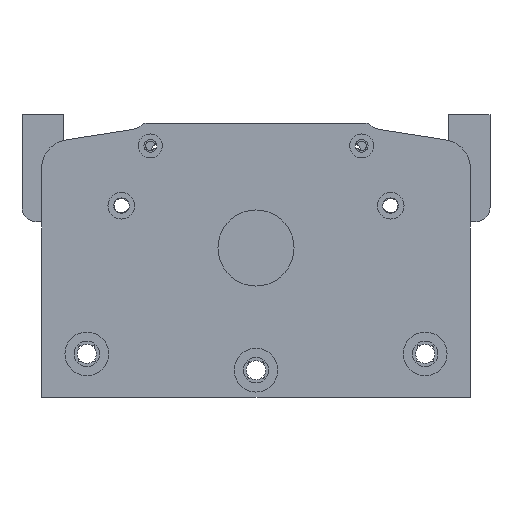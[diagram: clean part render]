
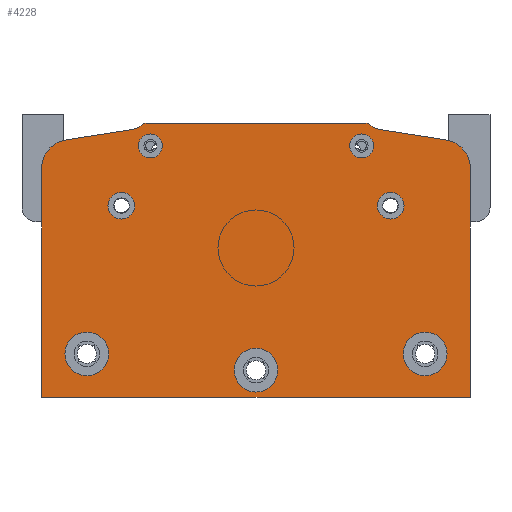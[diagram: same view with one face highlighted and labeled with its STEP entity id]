
A CAD part, left-side view. The second image highlights one B-rep face of the part: STEP entity #4228.
In plain terms, the highlighted planar face has unit normal (-1, 0, 0).
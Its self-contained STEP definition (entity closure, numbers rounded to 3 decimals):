
#363=LINE('',#24069,#1749);
#367=LINE('',#24078,#1753);
#380=LINE('',#24138,#1766);
#382=LINE('',#24156,#1768);
#383=LINE('',#24158,#1769);
#384=LINE('',#24168,#1770);
#1749=VECTOR('',#19469,1.);
#1753=VECTOR('',#19475,1.);
#1766=VECTOR('',#19526,1.);
#1768=VECTOR('',#19544,1.);
#1769=VECTOR('',#19545,1.);
#1770=VECTOR('',#19556,1.);
#4228=ADVANCED_FACE('',(#5822,#5823,#5824,#5825,#5826,#5827,#5828,#5829),
#4994,.T.);
#4994=PLANE('',#16955);
#5822=FACE_BOUND('',#6711,.T.);
#5823=FACE_BOUND('',#6712,.T.);
#5824=FACE_BOUND('',#6713,.T.);
#5825=FACE_BOUND('',#6714,.T.);
#5826=FACE_BOUND('',#6715,.T.);
#5827=FACE_BOUND('',#6716,.T.);
#5828=FACE_BOUND('',#6717,.T.);
#5829=FACE_BOUND('',#6718,.T.);
#6711=EDGE_LOOP('',(#8702));
#6712=EDGE_LOOP('',(#8703));
#6713=EDGE_LOOP('',(#8704));
#6714=EDGE_LOOP('',(#8705));
#6715=EDGE_LOOP('',(#8706));
#6716=EDGE_LOOP('',(#8707));
#6717=EDGE_LOOP('',(#8708));
#6718=EDGE_LOOP('',(#8709,#8710,#8711,#8712,#8713,#8714,#8715,#8716,#8717,
#8718,#8719,#8720));
#8702=ORIENTED_EDGE('',*,*,#13999,.F.);
#8703=ORIENTED_EDGE('',*,*,#14000,.F.);
#8704=ORIENTED_EDGE('',*,*,#14001,.F.);
#8705=ORIENTED_EDGE('',*,*,#14002,.F.);
#8706=ORIENTED_EDGE('',*,*,#14003,.F.);
#8707=ORIENTED_EDGE('',*,*,#14004,.F.);
#8708=ORIENTED_EDGE('',*,*,#14005,.F.);
#8709=ORIENTED_EDGE('',*,*,#14006,.F.);
#8710=ORIENTED_EDGE('',*,*,#13997,.F.);
#8711=ORIENTED_EDGE('',*,*,#14007,.T.);
#8712=ORIENTED_EDGE('',*,*,#14008,.F.);
#8713=ORIENTED_EDGE('',*,*,#13963,.F.);
#8714=ORIENTED_EDGE('',*,*,#14009,.F.);
#8715=ORIENTED_EDGE('',*,*,#14010,.F.);
#8716=ORIENTED_EDGE('',*,*,#13967,.F.);
#8717=ORIENTED_EDGE('',*,*,#14011,.T.);
#8718=ORIENTED_EDGE('',*,*,#14012,.F.);
#8719=ORIENTED_EDGE('',*,*,#14013,.F.);
#8720=ORIENTED_EDGE('',*,*,#14014,.F.);
#12288=VERTEX_POINT('',#24070);
#12289=VERTEX_POINT('',#24071);
#12292=VERTEX_POINT('',#24079);
#12293=VERTEX_POINT('',#24080);
#12319=VERTEX_POINT('',#24137);
#12320=VERTEX_POINT('',#24139);
#12321=VERTEX_POINT('',#24143);
#12322=VERTEX_POINT('',#24145);
#12323=VERTEX_POINT('',#24147);
#12324=VERTEX_POINT('',#24149);
#12325=VERTEX_POINT('',#24151);
#12326=VERTEX_POINT('',#24153);
#12327=VERTEX_POINT('',#24155);
#12328=VERTEX_POINT('',#24157);
#12329=VERTEX_POINT('',#24159);
#12330=VERTEX_POINT('',#24162);
#12331=VERTEX_POINT('',#24165);
#12332=VERTEX_POINT('',#24167);
#12333=VERTEX_POINT('',#24169);
#13963=EDGE_CURVE('',#12288,#12289,#363,.T.);
#13967=EDGE_CURVE('',#12292,#12293,#367,.T.);
#13997=EDGE_CURVE('',#12319,#12320,#380,.T.);
#13999=EDGE_CURVE('',#12321,#12321,#15877,.T.);
#14000=EDGE_CURVE('',#12322,#12322,#15878,.T.);
#14001=EDGE_CURVE('',#12323,#12323,#15879,.T.);
#14002=EDGE_CURVE('',#12324,#12324,#15880,.T.);
#14003=EDGE_CURVE('',#12325,#12325,#15881,.T.);
#14004=EDGE_CURVE('',#12326,#12326,#15882,.T.);
#14005=EDGE_CURVE('',#12327,#12327,#15883,.T.);
#14006=EDGE_CURVE('',#12320,#12328,#382,.T.);
#14007=EDGE_CURVE('',#12319,#12329,#383,.T.);
#14008=EDGE_CURVE('',#12289,#12329,#15884,.T.);
#14009=EDGE_CURVE('',#12330,#12288,#15885,.T.);
#14010=EDGE_CURVE('',#12293,#12330,#15886,.T.);
#14011=EDGE_CURVE('',#12292,#12331,#15887,.T.);
#14012=EDGE_CURVE('',#12332,#12331,#15888,.T.);
#14013=EDGE_CURVE('',#12333,#12332,#384,.T.);
#14014=EDGE_CURVE('',#12328,#12333,#15889,.T.);
#15877=CIRCLE('',#16942,4.25);
#15878=CIRCLE('',#16943,4.25);
#15879=CIRCLE('',#16944,4.75);
#15880=CIRCLE('',#16945,4.75);
#15881=CIRCLE('',#16946,7.75);
#15882=CIRCLE('',#16947,7.75);
#15883=CIRCLE('',#16948,7.75);
#15884=CIRCLE('',#16949,10.);
#15885=CIRCLE('',#16950,6.);
#15886=CIRCLE('',#16951,2.5);
#15887=CIRCLE('',#16952,2.5);
#15888=CIRCLE('',#16953,6.);
#15889=CIRCLE('',#16954,10.);
#16942=AXIS2_PLACEMENT_3D('',#24142,#19530,#19531);
#16943=AXIS2_PLACEMENT_3D('',#24144,#19532,#19533);
#16944=AXIS2_PLACEMENT_3D('',#24146,#19534,#19535);
#16945=AXIS2_PLACEMENT_3D('',#24148,#19536,#19537);
#16946=AXIS2_PLACEMENT_3D('',#24150,#19538,#19539);
#16947=AXIS2_PLACEMENT_3D('',#24152,#19540,#19541);
#16948=AXIS2_PLACEMENT_3D('',#24154,#19542,#19543);
#16949=AXIS2_PLACEMENT_3D('',#24160,#19546,#19547);
#16950=AXIS2_PLACEMENT_3D('',#24161,#19548,#19549);
#16951=AXIS2_PLACEMENT_3D('',#24163,#19550,#19551);
#16952=AXIS2_PLACEMENT_3D('',#24164,#19552,#19553);
#16953=AXIS2_PLACEMENT_3D('',#24166,#19554,#19555);
#16954=AXIS2_PLACEMENT_3D('',#24170,#19557,#19558);
#16955=AXIS2_PLACEMENT_3D('',#24171,#19559,#19560);
#19469=DIRECTION('',(0.,-0.988,-0.156));
#19475=DIRECTION('',(0.,-1.,0.));
#19526=DIRECTION('',(0.,1.,0.));
#19530=DIRECTION('',(-1.,0.,0.));
#19531=DIRECTION('',(0.,0.,1.));
#19532=DIRECTION('',(-1.,0.,0.));
#19533=DIRECTION('',(0.,0.,1.));
#19534=DIRECTION('',(-1.,0.,0.));
#19535=DIRECTION('',(0.,0.,1.));
#19536=DIRECTION('',(-1.,0.,0.));
#19537=DIRECTION('',(0.,0.,1.));
#19538=DIRECTION('',(-1.,0.,0.));
#19539=DIRECTION('',(0.,0.,1.));
#19540=DIRECTION('',(-1.,0.,0.));
#19541=DIRECTION('',(0.,0.,1.));
#19542=DIRECTION('',(-1.,0.,0.));
#19543=DIRECTION('',(0.,0.,1.));
#19544=DIRECTION('',(0.,0.,1.));
#19545=DIRECTION('',(0.,0.,1.));
#19546=DIRECTION('',(1.,0.,0.));
#19547=DIRECTION('',(0.,0.,-1.));
#19548=DIRECTION('',(-1.,0.,0.));
#19549=DIRECTION('',(0.,0.,-1.));
#19550=DIRECTION('',(1.,0.,0.));
#19551=DIRECTION('',(0.,0.,-1.));
#19552=DIRECTION('',(-1.,0.,0.));
#19553=DIRECTION('',(0.,0.,-1.));
#19554=DIRECTION('',(-1.,0.,0.));
#19555=DIRECTION('',(0.,0.,-1.));
#19556=DIRECTION('',(0.,-0.988,0.156));
#19557=DIRECTION('',(1.,0.,0.));
#19558=DIRECTION('',(0.,0.,-1.));
#19559=DIRECTION('',(-1.,0.,0.));
#19560=DIRECTION('',(0.,0.,-1.));
#24069=CARTESIAN_POINT('',(634.416,488.321,381.4));
#24070=CARTESIAN_POINT('',(634.416,462.124,377.251));
#24071=CARTESIAN_POINT('',(634.416,438.369,373.488));
#24078=CARTESIAN_POINT('',(634.416,505.933,379.4));
#24079=CARTESIAN_POINT('',(634.416,544.949,379.4));
#24080=CARTESIAN_POINT('',(634.416,466.917,379.4));
#24137=CARTESIAN_POINT('',(634.416,429.933,282.2));
#24138=CARTESIAN_POINT('',(634.416,505.933,282.2));
#24139=CARTESIAN_POINT('',(634.416,581.933,282.2));
#24142=CARTESIAN_POINT('',(634.416,543.433,371.4));
#24143=CARTESIAN_POINT('',(634.416,543.433,375.65));
#24144=CARTESIAN_POINT('',(634.416,468.433,371.4));
#24145=CARTESIAN_POINT('',(634.416,468.433,375.65));
#24146=CARTESIAN_POINT('',(634.416,553.683,350.2));
#24147=CARTESIAN_POINT('',(634.416,553.683,354.95));
#24148=CARTESIAN_POINT('',(634.416,458.183,350.2));
#24149=CARTESIAN_POINT('',(634.416,458.183,354.95));
#24150=CARTESIAN_POINT('',(634.416,565.933,297.626));
#24151=CARTESIAN_POINT('',(634.416,565.933,305.376));
#24152=CARTESIAN_POINT('',(634.416,505.933,291.85));
#24153=CARTESIAN_POINT('',(634.416,505.933,299.6));
#24154=CARTESIAN_POINT('',(634.416,445.933,297.626));
#24155=CARTESIAN_POINT('',(634.416,445.933,305.376));
#24156=CARTESIAN_POINT('',(634.416,581.933,270.2));
#24157=CARTESIAN_POINT('',(634.416,581.933,363.611));
#24158=CARTESIAN_POINT('',(634.416,429.933,270.2));
#24159=CARTESIAN_POINT('',(634.416,429.933,363.611));
#24160=CARTESIAN_POINT('',(634.416,439.933,363.611));
#24161=CARTESIAN_POINT('',(634.416,461.185,383.177));
#24162=CARTESIAN_POINT('',(634.416,465.231,378.746));
#24163=CARTESIAN_POINT('',(634.416,466.917,376.9));
#24164=CARTESIAN_POINT('',(634.416,544.949,376.9));
#24165=CARTESIAN_POINT('',(634.416,546.635,378.746));
#24166=CARTESIAN_POINT('',(634.416,550.681,383.177));
#24167=CARTESIAN_POINT('',(634.416,549.742,377.251));
#24168=CARTESIAN_POINT('',(634.416,523.545,381.4));
#24169=CARTESIAN_POINT('',(634.416,573.497,373.488));
#24170=CARTESIAN_POINT('',(634.416,571.933,363.611));
#24171=CARTESIAN_POINT('',(634.416,505.933,270.2));
